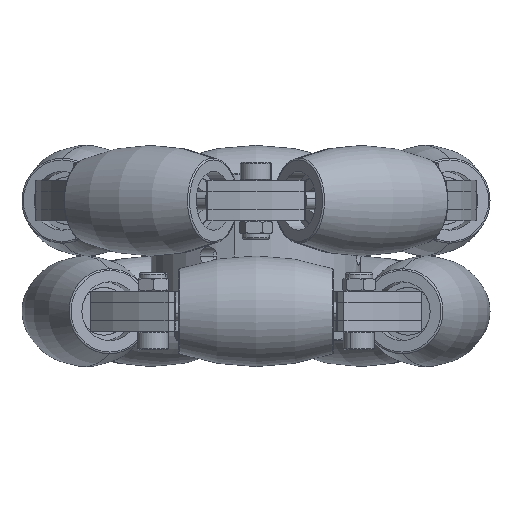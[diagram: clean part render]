
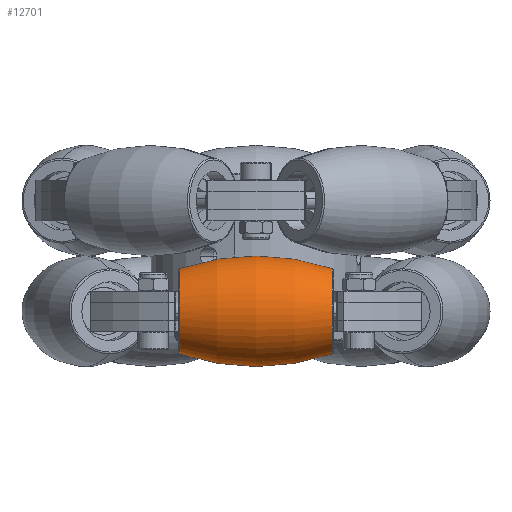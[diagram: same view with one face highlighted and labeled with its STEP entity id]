
A CAD part, front view. The second image highlights one B-rep face of the part: STEP entity #12701.
In plain terms, the highlighted toroidal (fillet/blend) face has major radius 48.5 mm and minor radius 63.5 mm.
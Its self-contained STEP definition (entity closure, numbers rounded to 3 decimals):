
#485 = EDGE_CURVE ( 'NONE', #4358, #13047, #12353, .T. ) ;
#976 = DIRECTION ( 'NONE',  ( 0., -1., 0. ) ) ;
#1895 = DIRECTION ( 'NONE',  ( 0., 1., 0. ) ) ;
#2137 = CARTESIAN_POINT ( 'NONE',  ( 20.663, 48.5, 0. ) ) ;
#2218 = AXIS2_PLACEMENT_3D ( 'NONE', #8977, #1895, #4099 ) ;
#2517 = CARTESIAN_POINT ( 'NONE',  ( 20.663, 48.5, -11.544 ) ) ;
#2754 = TOROIDAL_SURFACE ( 'NONE', #3620, -48.5, 63.5 ) ;
#3574 = ORIENTED_EDGE ( 'NONE', *, *, #5656, .F. ) ;
#3580 = DIRECTION ( 'NONE',  ( 0., 0., -1. ) ) ;
#3620 = AXIS2_PLACEMENT_3D ( 'NONE', #9045, #7041, #6044 ) ;
#3780 = VERTEX_POINT ( 'NONE', #2517 ) ;
#3975 = EDGE_LOOP ( 'NONE', ( #10259, #6462, #4672, #3574 ) ) ;
#4099 = DIRECTION ( 'NONE',  ( 0., 0., 1. ) ) ;
#4156 = VERTEX_POINT ( 'NONE', #7577 ) ;
#4358 = VERTEX_POINT ( 'NONE', #9833 ) ;
#4672 = ORIENTED_EDGE ( 'NONE', *, *, #485, .T. ) ;
#5063 = DIRECTION ( 'NONE',  ( 0., 0., -1. ) ) ;
#5214 = DIRECTION ( 'NONE',  ( -1., 0., 0. ) ) ;
#5545 = CIRCLE ( 'NONE', #10228, 11.544 ) ;
#5656 = EDGE_CURVE ( 'NONE', #4156, #13047, #6312, .T. ) ;
#6044 = DIRECTION ( 'NONE',  ( 0., 0., -1. ) ) ;
#6163 = FACE_OUTER_BOUND ( 'NONE', #3975, .T. ) ;
#6312 = CIRCLE ( 'NONE', #8892, 63.5 ) ;
#6462 = ORIENTED_EDGE ( 'NONE', *, *, #9221, .T. ) ;
#7041 = DIRECTION ( 'NONE',  ( -1., 0., 0. ) ) ;
#7062 = AXIS2_PLACEMENT_3D ( 'NONE', #12772, #10928, #3580 ) ;
#7577 = CARTESIAN_POINT ( 'NONE',  ( 20.663, 48.5, 11.544 ) ) ;
#8892 = AXIS2_PLACEMENT_3D ( 'NONE', #10129, #976, #5063 ) ;
#8977 = CARTESIAN_POINT ( 'NONE',  ( 0., 48.5, 48.5 ) ) ;
#9045 = CARTESIAN_POINT ( 'NONE',  ( 0., 48.5, 0. ) ) ;
#9221 = EDGE_CURVE ( 'NONE', #3780, #4358, #9693, .T. ) ;
#9275 = DIRECTION ( 'NONE',  ( 0., 0., 1. ) ) ;
#9693 = CIRCLE ( 'NONE', #2218, 63.5 ) ;
#9833 = CARTESIAN_POINT ( 'NONE',  ( -20.663, 48.5, -11.544 ) ) ;
#10129 = CARTESIAN_POINT ( 'NONE',  ( 0., 48.5, -48.5 ) ) ;
#10228 = AXIS2_PLACEMENT_3D ( 'NONE', #2137, #5214, #9275 ) ;
#10259 = ORIENTED_EDGE ( 'NONE', *, *, #11177, .T. ) ;
#10928 = DIRECTION ( 'NONE',  ( 1., 0., 0. ) ) ;
#11177 = EDGE_CURVE ( 'NONE', #4156, #3780, #5545, .T. ) ;
#11765 = CARTESIAN_POINT ( 'NONE',  ( -20.663, 48.5, 11.544 ) ) ;
#12353 = CIRCLE ( 'NONE', #7062, 11.544 ) ;
#12701 = ADVANCED_FACE ( 'NONE', ( #6163 ), #2754, .T. ) ;
#12772 = CARTESIAN_POINT ( 'NONE',  ( -20.663, 48.5, 0. ) ) ;
#13047 = VERTEX_POINT ( 'NONE', #11765 ) ;
